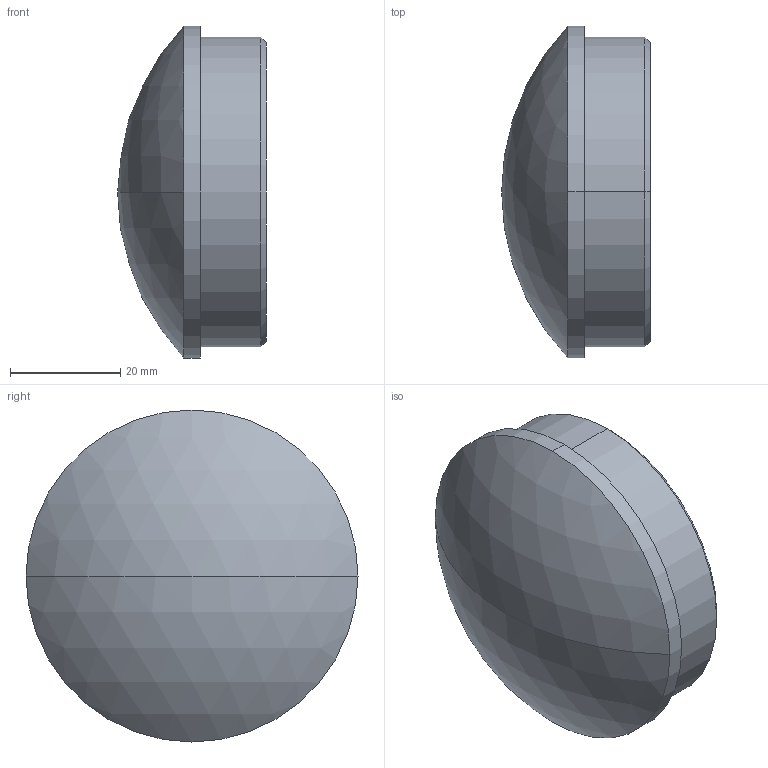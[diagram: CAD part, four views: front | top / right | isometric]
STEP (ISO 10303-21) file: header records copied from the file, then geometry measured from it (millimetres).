
FILE_DESCRIPTION (( 'STEP AP203' ), '1' );
FILE_NAME ('3D_GR1392_DN60.3x2_18380275.STEP', '2024-09-21T10:26:39', ( '' ), ( '' ), 'SwSTEP 2.0', 'SolidWorks 2024', '' );
FILE_SCHEMA (( 'CONFIG_CONTROL_DESIGN' ));
Length unit declared in the file: millimetre
Products named in the file (1): 3D_GR1392_DN60.3x2_18380275
Bounding box: 27 x 60.3 x 60.3 mm (x, y, z)
Volume: 56393 mm3; surface area: 8749.8 mm2
Topology: 1 solids, 1 shells, 10 faces, 20 edges, 13 vertices
Faces by surface type: cylinder 4, cone 2, sphere 2, plane 2
Entity records: 347 total; most frequent: DIRECTION 56, CARTESIAN_POINT 44, ORIENTED_EDGE 40, AXIS2_PLACEMENT_3D 25, EDGE_CURVE 20, CIRCLE 14, VERTEX_POINT 13, EDGE_LOOP 11
